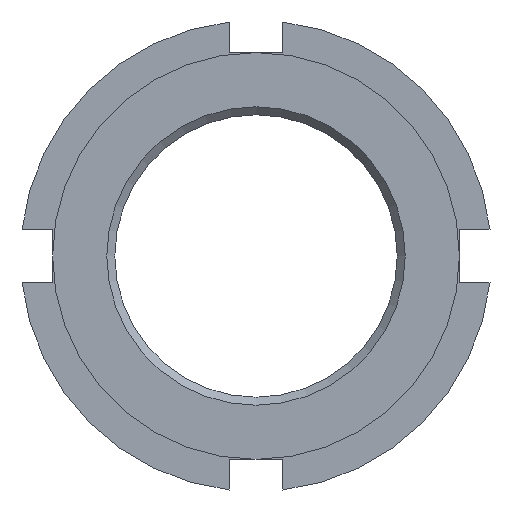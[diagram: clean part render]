
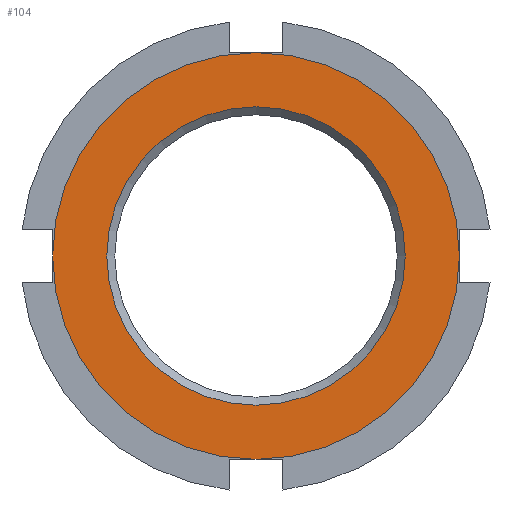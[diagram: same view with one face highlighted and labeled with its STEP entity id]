
A CAD part, left-side view. The second image highlights one B-rep face of the part: STEP entity #104.
In plain terms, the highlighted planar face has unit normal (-1, 0, 0).
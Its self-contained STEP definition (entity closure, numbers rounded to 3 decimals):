
#104 = ADVANCED_FACE( '', ( #177, #178 ), #179, .F. );
#177 = FACE_OUTER_BOUND( '', #255, .T. );
#178 = FACE_BOUND( '', #256, .T. );
#179 = PLANE( '', #257 );
#255 = EDGE_LOOP( '', ( #475 ) );
#256 = EDGE_LOOP( '', ( #476 ) );
#257 = AXIS2_PLACEMENT_3D( '', #477, #478, #479 );
#475 = ORIENTED_EDGE( '', *, *, #570, .F. );
#476 = ORIENTED_EDGE( '', *, *, #550, .T. );
#477 = CARTESIAN_POINT( '', ( 0., 0., 0. ) );
#478 = DIRECTION( '', ( 1., 0., 0. ) );
#479 = DIRECTION( '', ( 0., 0., -1. ) );
#550 = EDGE_CURVE( '', #656, #656, #657, .T. );
#570 = EDGE_CURVE( '', #684, #684, #685, .T. );
#656 = VERTEX_POINT( '', #829 );
#657 = CIRCLE( '', #830, 13.938 );
#684 = VERTEX_POINT( '', #865 );
#685 = CIRCLE( '', #866, 19. );
#829 = CARTESIAN_POINT( '', ( 0., 0., -13.938 ) );
#830 = AXIS2_PLACEMENT_3D( '', #947, #948, #949 );
#865 = CARTESIAN_POINT( '', ( 0., 0., -19. ) );
#866 = AXIS2_PLACEMENT_3D( '', #994, #995, #996 );
#947 = CARTESIAN_POINT( '', ( 0., 0., 0. ) );
#948 = DIRECTION( '', ( 1., 0., 0. ) );
#949 = DIRECTION( '', ( 0., 0., -1. ) );
#994 = CARTESIAN_POINT( '', ( 0., 0., 0. ) );
#995 = DIRECTION( '', ( 1., 0., 0. ) );
#996 = DIRECTION( '', ( 0., 0., -1. ) );
